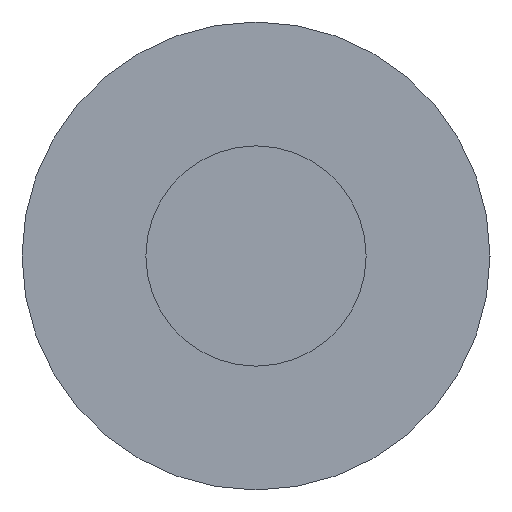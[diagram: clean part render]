
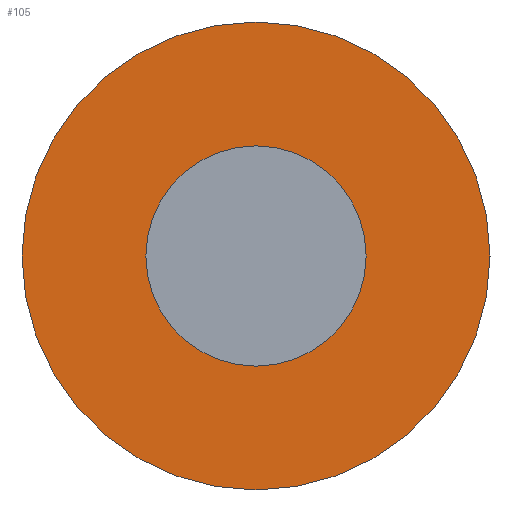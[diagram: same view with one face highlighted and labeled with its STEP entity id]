
A CAD part, left-side view. The second image highlights one B-rep face of the part: STEP entity #105.
In plain terms, the highlighted planar face has unit normal (-1, 0, 0).
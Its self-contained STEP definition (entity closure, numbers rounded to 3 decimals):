
#21 = EDGE_CURVE('',#22,#22,#24,.T.);
#22 = VERTEX_POINT('',#23);
#23 = CARTESIAN_POINT('',(79.,-49.893,-51.918));
#24 = SURFACE_CURVE('',#25,(#30,#42),.PCURVE_S1.);
#25 = CIRCLE('',#26,2.);
#26 = AXIS2_PLACEMENT_3D('',#27,#28,#29);
#27 = CARTESIAN_POINT('',(79.,-49.893,-53.918));
#28 = DIRECTION('',(1.,0.,0.));
#29 = DIRECTION('',(-0.,0.,1.));
#30 = PCURVE('',#31,#36);
#31 = CYLINDRICAL_SURFACE('',#32,2.);
#32 = AXIS2_PLACEMENT_3D('',#33,#34,#35);
#33 = CARTESIAN_POINT('',(70.,-49.893,-53.918));
#34 = DIRECTION('',(1.,0.,0.));
#35 = DIRECTION('',(-0.,0.,1.));
#36 = DEFINITIONAL_REPRESENTATION('',(#37),#41);
#37 = LINE('',#38,#39);
#38 = CARTESIAN_POINT('',(0.,9.));
#39 = VECTOR('',#40,1.);
#40 = DIRECTION('',(1.,0.));
#41 = ( GEOMETRIC_REPRESENTATION_CONTEXT(2) 
PARAMETRIC_REPRESENTATION_CONTEXT() REPRESENTATION_CONTEXT('2D SPACE',''
  ) );
#42 = PCURVE('',#43,#48);
#43 = PLANE('',#44);
#44 = AXIS2_PLACEMENT_3D('',#45,#46,#47);
#45 = CARTESIAN_POINT('',(79.,-49.893,-53.918));
#46 = DIRECTION('',(1.,0.,0.));
#47 = DIRECTION('',(-0.,0.,1.));
#48 = DEFINITIONAL_REPRESENTATION('',(#49),#53);
#49 = CIRCLE('',#50,2.);
#50 = AXIS2_PLACEMENT_2D('',#51,#52);
#51 = CARTESIAN_POINT('',(0.,0.));
#52 = DIRECTION('',(1.,0.));
#53 = ( GEOMETRIC_REPRESENTATION_CONTEXT(2) 
PARAMETRIC_REPRESENTATION_CONTEXT() REPRESENTATION_CONTEXT('2D SPACE',''
  ) );
#105 = ADVANCED_FACE('',(#106,#137),#43,.F.);
#106 = FACE_BOUND('',#107,.F.);
#107 = EDGE_LOOP('',(#108));
#108 = ORIENTED_EDGE('',*,*,#109,.T.);
#109 = EDGE_CURVE('',#110,#110,#112,.T.);
#110 = VERTEX_POINT('',#111);
#111 = CARTESIAN_POINT('',(79.,-49.893,-49.668));
#112 = SURFACE_CURVE('',#113,(#118,#125),.PCURVE_S1.);
#113 = CIRCLE('',#114,4.25);
#114 = AXIS2_PLACEMENT_3D('',#115,#116,#117);
#115 = CARTESIAN_POINT('',(79.,-49.893,-53.918));
#116 = DIRECTION('',(1.,0.,0.));
#117 = DIRECTION('',(-0.,0.,1.));
#118 = PCURVE('',#43,#119);
#119 = DEFINITIONAL_REPRESENTATION('',(#120),#124);
#120 = CIRCLE('',#121,4.25);
#121 = AXIS2_PLACEMENT_2D('',#122,#123);
#122 = CARTESIAN_POINT('',(0.,0.));
#123 = DIRECTION('',(1.,0.));
#124 = ( GEOMETRIC_REPRESENTATION_CONTEXT(2) 
PARAMETRIC_REPRESENTATION_CONTEXT() REPRESENTATION_CONTEXT('2D SPACE',''
  ) );
#125 = PCURVE('',#126,#131);
#126 = CYLINDRICAL_SURFACE('',#127,4.25);
#127 = AXIS2_PLACEMENT_3D('',#128,#129,#130);
#128 = CARTESIAN_POINT('',(79.,-49.893,-53.918));
#129 = DIRECTION('',(1.,0.,0.));
#130 = DIRECTION('',(-0.,0.,1.));
#131 = DEFINITIONAL_REPRESENTATION('',(#132),#136);
#132 = LINE('',#133,#134);
#133 = CARTESIAN_POINT('',(0.,0.));
#134 = VECTOR('',#135,1.);
#135 = DIRECTION('',(1.,0.));
#136 = ( GEOMETRIC_REPRESENTATION_CONTEXT(2) 
PARAMETRIC_REPRESENTATION_CONTEXT() REPRESENTATION_CONTEXT('2D SPACE',''
  ) );
#137 = FACE_BOUND('',#138,.F.);
#138 = EDGE_LOOP('',(#139));
#139 = ORIENTED_EDGE('',*,*,#21,.F.);
